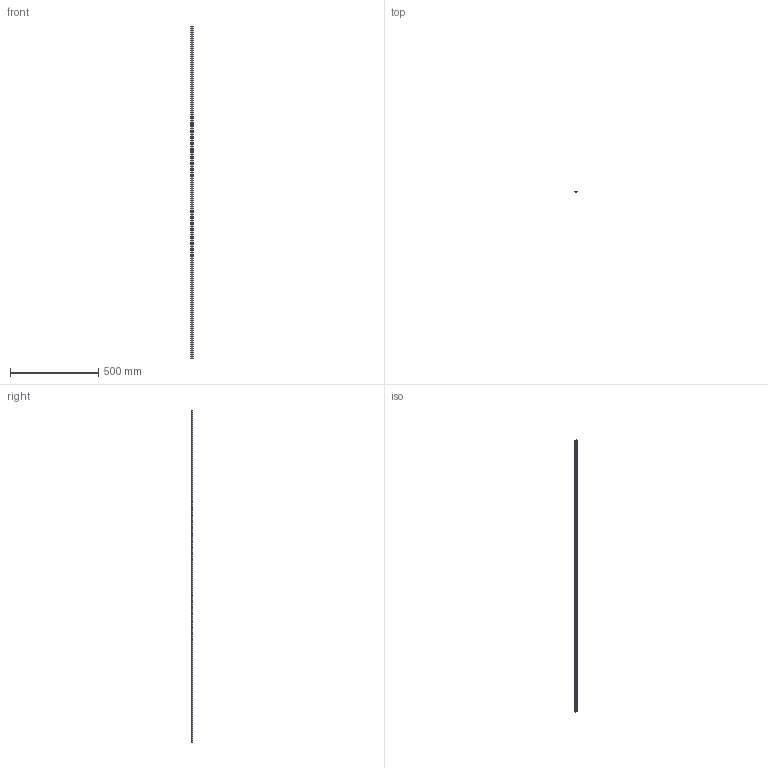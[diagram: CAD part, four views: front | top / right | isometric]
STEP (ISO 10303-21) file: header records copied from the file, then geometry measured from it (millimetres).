
FILE_DESCRIPTION(('STEP AP203'),'1');
FILE_NAME('slide_nms12l1886p1.stp','2022-07-01T04:20:05',('TraceParts'),('TraceParts S.A.'),'Spatial InterOp 3D',' ',' ');
FILE_SCHEMA(('CONFIG_CONTROL_DESIGN'));
Length unit declared in the file: millimetre
Products named in the file (1): 1
Bounding box: 11.63 x 7.7 x 1886 mm (x, y, z)
Volume: 108555.9 mm3; surface area: 78701.3 mm2
Topology: 1 solids, 1 shells, 240 faces, 588 edges, 392 vertices
Faces by surface type: cylinder 180, plane 60
Entity records: 7484 total; most frequent: DIRECTION 1430, CARTESIAN_POINT 1221, ORIENTED_EDGE 1176, AXIS2_PLACEMENT_3D 601, EDGE_CURVE 588, VERTEX_POINT 392, EDGE_LOOP 366, CIRCLE 360
